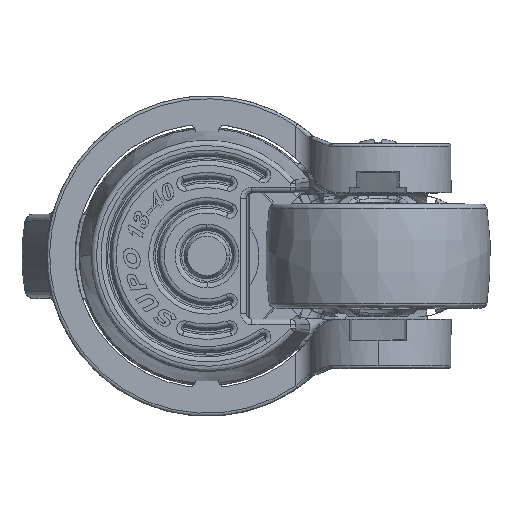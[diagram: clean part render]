
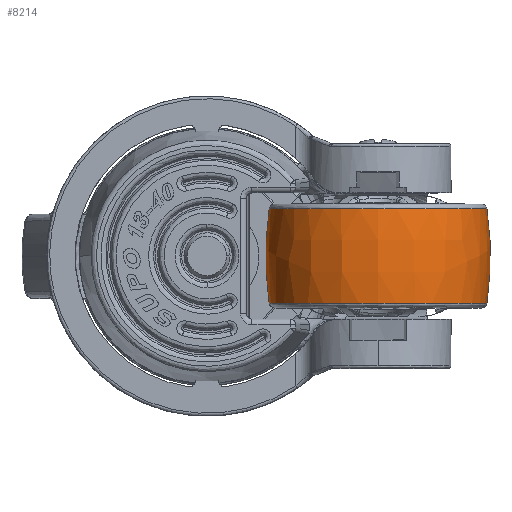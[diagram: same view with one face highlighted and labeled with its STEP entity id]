
A CAD part, top view. The second image highlights one B-rep face of the part: STEP entity #8214.
In plain terms, the highlighted free-form (B-spline) face has degree [3, 3] with [4, 4] control points.
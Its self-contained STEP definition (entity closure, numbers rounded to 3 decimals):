
#874 = EDGE_CURVE ( 'NONE', #92106, #90576, #40424, .T. ) ;
#1062 = CARTESIAN_POINT ( 'NONE',  ( 49.833, -8.396, 45.8 ) ) ;
#2624 = AXIS2_PLACEMENT_3D ( 'NONE', #32343, #38744, #23124 ) ;
#3410 = EDGE_CURVE ( 'NONE', #23665, #33865, #71630, .T. ) ;
#5087 = EDGE_LOOP ( 'NONE', ( #16160, #28421, #14982, #47287, #59768, #79981 ) ) ;
#5294 = DIRECTION ( 'NONE',  ( -1., 0., 0. ) ) ;
#8214 = ADVANCED_FACE ( 'NONE', ( #50856 ), #74212, .F. ) ;
#9321 = CARTESIAN_POINT ( 'NONE',  ( 50.657, -2.819, 45.8 ) ) ;
#9437 =( BOUNDED_CURVE ( )  B_SPLINE_CURVE ( 3, ( #50259, #26852, #87930, #26381 ),
 .UNSPECIFIED., .F., .F. ) 
 B_SPLINE_CURVE_WITH_KNOTS ( ( 4, 4 ),
 ( 0.019, 0.981 ),
 .UNSPECIFIED. ) 
 CURVE ( )  GEOMETRIC_REPRESENTATION_ITEM ( )  RATIONAL_B_SPLINE_CURVE ( ( 1., 0.992, 0.992, 1. ) ) 
 REPRESENTATION_ITEM ( '' )  );
#13435 = CARTESIAN_POINT ( 'NONE',  ( 11.067, -8.396, 45.8 ) ) ;
#14982 = ORIENTED_EDGE ( 'NONE', *, *, #874, .F. ) ;
#16160 = ORIENTED_EDGE ( 'NONE', *, *, #3410, .F. ) ;
#16172 = CARTESIAN_POINT ( 'NONE',  ( 10.243, -2.819, 45.8 ) ) ;
#18169 = DIRECTION ( 'NONE',  ( 0., -1., 0. ) ) ;
#18466 = CARTESIAN_POINT ( 'NONE',  ( 11.067, 8.396, 45.8 ) ) ;
#19349 = CARTESIAN_POINT ( 'NONE',  ( 49.832, -8.396, 45.923 ) ) ;
#19442 = EDGE_CURVE ( 'NONE', #92106, #91484, #9437, .T. ) ;
#20951 = CARTESIAN_POINT ( 'NONE',  ( 30.45, 8.396, 45.8 ) ) ;
#21309 = CIRCLE ( 'NONE', #2624, 19.383 ) ;
#23124 = DIRECTION ( 'NONE',  ( -1., 0., 0. ) ) ;
#23665 = VERTEX_POINT ( 'NONE', #83395 ) ;
#23974 = CARTESIAN_POINT ( 'NONE',  ( 49.833, -8.396, 45.8 ) ) ;
#24471 = CARTESIAN_POINT ( 'NONE',  ( 50.657, 2.819, 45.8 ) ) ;
#26381 = CARTESIAN_POINT ( 'NONE',  ( 11.067, -8.396, 45.8 ) ) ;
#26852 = CARTESIAN_POINT ( 'NONE',  ( 10.243, 2.819, 45.8 ) ) ;
#27587 = EDGE_CURVE ( 'NONE', #33865, #57496, #27838, .T. ) ;
#27838 = CIRCLE ( 'NONE', #37220, 19.383 ) ;
#28421 = ORIENTED_EDGE ( 'NONE', *, *, #76282, .F. ) ;
#32343 = CARTESIAN_POINT ( 'NONE',  ( 30.45, 8.396, 45.8 ) ) ;
#33865 = VERTEX_POINT ( 'NONE', #1062 ) ;
#35794 = CARTESIAN_POINT ( 'NONE',  ( 49.833, 8.396, 45.8 ) ) ;
#36224 = CARTESIAN_POINT ( 'NONE',  ( 49.833, 8.396, 45.8 ) ) ;
#36711 = CARTESIAN_POINT ( 'NONE',  ( 11.067, 8.396, 45.8 ) ) ;
#37220 = AXIS2_PLACEMENT_3D ( 'NONE', #48360, #49335, #70370 ) ;
#38744 = DIRECTION ( 'NONE',  ( 0., 1., 0. ) ) ;
#40424 = CIRCLE ( 'NONE', #43551, 19.383 ) ;
#42747 = CIRCLE ( 'NONE', #80208, 19.383 ) ;
#43551 = AXIS2_PLACEMENT_3D ( 'NONE', #20951, #72222, #5294 ) ;
#45928 = CARTESIAN_POINT ( 'NONE',  ( 11.067, -8.396, 45.8 ) ) ;
#47287 = ORIENTED_EDGE ( 'NONE', *, *, #19442, .T. ) ;
#48360 = CARTESIAN_POINT ( 'NONE',  ( 30.45, -8.396, 45.8 ) ) ;
#49335 = DIRECTION ( 'NONE',  ( 0., -1., 0. ) ) ;
#49475 = CARTESIAN_POINT ( 'NONE',  ( 50.657, 2.819, 45.8 ) ) ;
#50259 = CARTESIAN_POINT ( 'NONE',  ( 11.067, 8.396, 45.8 ) ) ;
#50856 = FACE_OUTER_BOUND ( 'NONE', #5087, .T. ) ;
#51338 = CARTESIAN_POINT ( 'NONE',  ( 49.833, 8.396, 84.566 ) ) ;
#53729 = CARTESIAN_POINT ( 'NONE',  ( 10.243, -2.819, 86.214 ) ) ;
#54678 = CARTESIAN_POINT ( 'NONE',  ( 50.657, 2.819, 86.214 ) ) ;
#57496 = VERTEX_POINT ( 'NONE', #19349 ) ;
#57897 = EDGE_CURVE ( 'NONE', #57496, #91484, #42747, .T. ) ;
#59768 = ORIENTED_EDGE ( 'NONE', *, *, #57897, .F. ) ;
#62014 = CARTESIAN_POINT ( 'NONE',  ( 11.067, -8.396, 84.566 ) ) ;
#70370 = DIRECTION ( 'NONE',  ( -1., 0., 0. ) ) ;
#71466 = CARTESIAN_POINT ( 'NONE',  ( 49.833, -8.396, 45.8 ) ) ;
#71630 =( BOUNDED_CURVE ( )  B_SPLINE_CURVE ( 3, ( #35794, #49475, #93471, #71466 ),
 .UNSPECIFIED., .F., .F. ) 
 B_SPLINE_CURVE_WITH_KNOTS ( ( 4, 4 ),
 ( 0.019, 0.981 ),
 .UNSPECIFIED. ) 
 CURVE ( )  GEOMETRIC_REPRESENTATION_ITEM ( )  RATIONAL_B_SPLINE_CURVE ( ( 1., 0.992, 0.992, 1. ) ) 
 REPRESENTATION_ITEM ( '' )  );
#72222 = DIRECTION ( 'NONE',  ( 0., 1., 0. ) ) ;
#73819 = CARTESIAN_POINT ( 'NONE',  ( 11.067, 8.396, 84.566 ) ) ;
#74212 =( BOUNDED_SURFACE ( )  B_SPLINE_SURFACE ( 3, 3, ( 
 ( #36224, #51338, #73819, #36711 ),
 ( #24471, #54678, #90909, #83102 ),
 ( #9321, #89962, #53729, #16172 ),
 ( #23974, #83572, #62014, #45928 ) ),
 .UNSPECIFIED., .F., .F., .F. ) 
 B_SPLINE_SURFACE_WITH_KNOTS ( ( 4, 4 ),
 ( 4, 4 ),
 ( 0.019, 0.981 ),
 ( 0., 1. ),
 .UNSPECIFIED. ) 
 GEOMETRIC_REPRESENTATION_ITEM ( )  RATIONAL_B_SPLINE_SURFACE ( (
 ( 1., 0.333, 0.333, 1.),
 ( 0.992, 0.331, 0.331, 0.992),
 ( 0.992, 0.331, 0.331, 0.992),
 ( 1., 0.333, 0.333, 1.) ) ) 
 REPRESENTATION_ITEM ( '' )  SURFACE ( )  );
#75904 = CARTESIAN_POINT ( 'NONE',  ( 49.832, 8.396, 45.923 ) ) ;
#76282 = EDGE_CURVE ( 'NONE', #90576, #23665, #21309, .T. ) ;
#77746 = DIRECTION ( 'NONE',  ( -1., 0., 0. ) ) ;
#79981 = ORIENTED_EDGE ( 'NONE', *, *, #27587, .F. ) ;
#80208 = AXIS2_PLACEMENT_3D ( 'NONE', #85058, #18169, #77746 ) ;
#83102 = CARTESIAN_POINT ( 'NONE',  ( 10.243, 2.819, 45.8 ) ) ;
#83395 = CARTESIAN_POINT ( 'NONE',  ( 49.833, 8.396, 45.8 ) ) ;
#83572 = CARTESIAN_POINT ( 'NONE',  ( 49.833, -8.396, 84.566 ) ) ;
#85058 = CARTESIAN_POINT ( 'NONE',  ( 30.45, -8.396, 45.8 ) ) ;
#87930 = CARTESIAN_POINT ( 'NONE',  ( 10.243, -2.819, 45.8 ) ) ;
#89962 = CARTESIAN_POINT ( 'NONE',  ( 50.657, -2.819, 86.214 ) ) ;
#90576 = VERTEX_POINT ( 'NONE', #75904 ) ;
#90909 = CARTESIAN_POINT ( 'NONE',  ( 10.243, 2.819, 86.214 ) ) ;
#91484 = VERTEX_POINT ( 'NONE', #13435 ) ;
#92106 = VERTEX_POINT ( 'NONE', #18466 ) ;
#93471 = CARTESIAN_POINT ( 'NONE',  ( 50.657, -2.819, 45.8 ) ) ;
